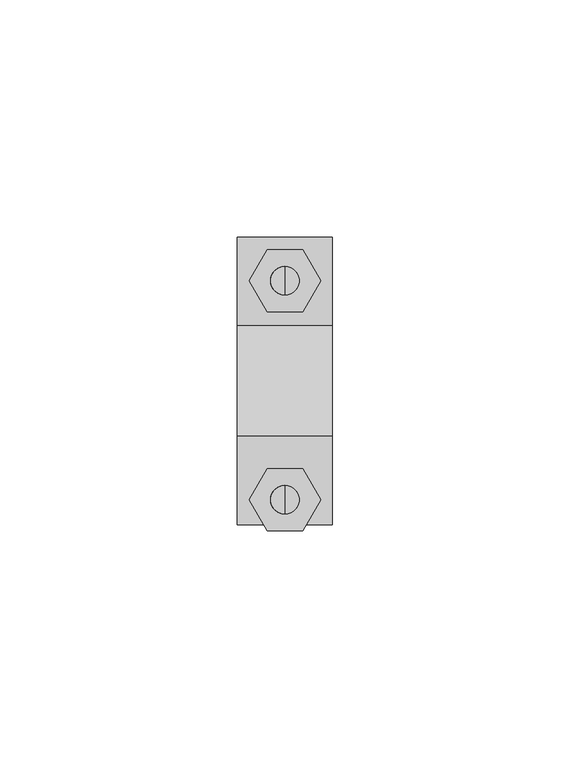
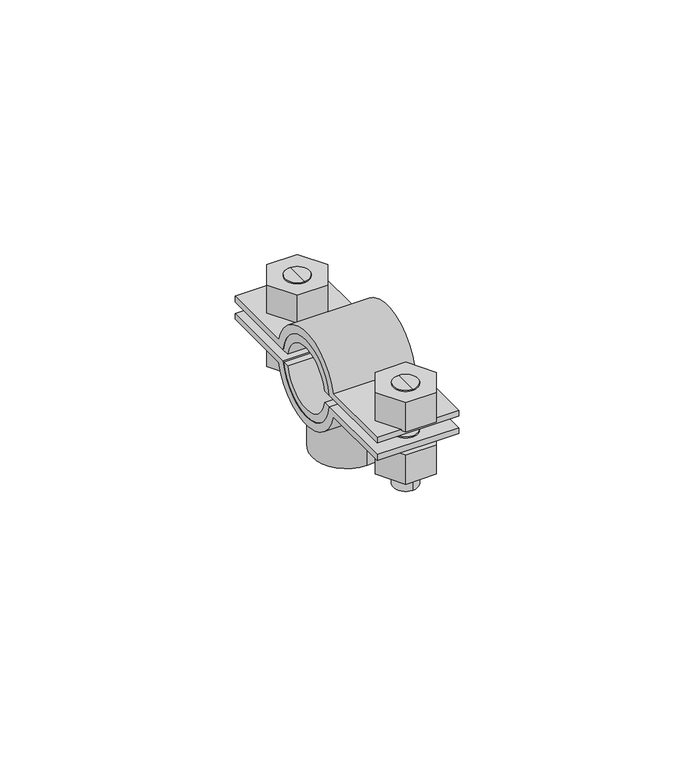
"""IFC4 building model written with IfcOpenShell, lengths in millimetres: valve geometry, Superfix DG2 Clamp Extra (based on pipe) : Superfix DG2 Clamp Extra (based on pipe)."""

from ifc_helpers import new_model, si_unit, point, frame, frame_2d, origin, origin_2d, place, context, project, spatial, polyline, circle_curve, trimmed, segment, composite_curve, outline, extrude, source, transform, mapped, element, save
from ifc_brep_helpers import plane_surface, cylinder_surface, advanced_brep


def valve_b86718a5(model_context):
    return source(origin(), model_context, "Body", "SolidModel", [
        advanced_brep(
        [(0.0, 24.125, 342.9002332), (0.0, 18.125, 342.9002332), (0.0, 18.125, 357.0002332), (0.0, 24.125, 357.0002332), (0.0, 21.125, 342.9002332)],
        [
            (0, 1, circle_curve(frame((0.0, 21.125, 342.9002332), z_axis=(0.0, 0.0, 1.0), x_axis=(0.0, 1.0, 0.0)), 3.0)),
            (1, 2),
            (2, 3, circle_curve(frame((0.0, 21.125, 357.0002332), z_axis=(0.0, 0.0, -1.0), x_axis=(0.0, 1.0, 0.0)), 3.0)),
            (3, 0),
            (1, 0, circle_curve(frame((0.0, 21.125, 342.9002332), z_axis=(0.0, 0.0, 1.0), x_axis=(0.0, 1.0, 0.0)), 3.0)),
            (3, 2, circle_curve(frame((0.0, 21.125, 357.0002332), z_axis=(0.0, 0.0, -1.0), x_axis=(0.0, 1.0, 0.0)), 3.0)),
            (0, 4),
            (4, 1),
        ],
        [
            cylinder_surface(frame((0.0, 21.125, 356.7808426), z_axis=(0.0, 0.0, 1.0), x_axis=(0.0, 1.0, 0.0)), 3.0),
            plane_surface(frame((0.0, 21.125, 342.9002332), z_axis=(0.0, 0.0, -1.0), x_axis=(0.0, 1.0, 0.0))),
            plane_surface(frame((13.75, -30.25, 357.0002332), z_axis=(0.0, 0.0, 1.0), x_axis=(-1.0, 0.0, 0.0))),
        ],
        [
            (0, [[1, 2, 3, 4]]),
            (0, [[5, -4, 6, -2]]),
            (1, [[-1, 7, 8]]),
            (1, [[-5, -8, -7]]),
            (2, [[-3, -6]]),
        ],
    ),
        advanced_brep(
        [(0.0, 18.125, 369.1002332), (0.0, 24.125, 369.1002332), (0.0, 24.125, 360.0002332), (0.0, 18.125, 360.0002332), (0.0, 21.125, 369.1002332)],
        [
            (0, 1, circle_curve(frame((0.0, 21.125, 369.1002332), z_axis=(0.0, 0.0, -1.0), x_axis=(0.0, 1.0, 0.0)), 3.0)),
            (1, 2),
            (2, 3, circle_curve(frame((0.0, 21.125, 360.0002332), z_axis=(0.0, 0.0, 1.0), x_axis=(0.0, 1.0, 0.0)), 3.0)),
            (3, 0),
            (1, 0, circle_curve(frame((0.0, 21.125, 369.1002332), z_axis=(0.0, 0.0, -1.0), x_axis=(0.0, 1.0, 0.0)), 3.0)),
            (3, 2, circle_curve(frame((0.0, 21.125, 360.0002332), z_axis=(0.0, 0.0, 1.0), x_axis=(0.0, 1.0, 0.0)), 3.0)),
            (0, 4),
            (4, 1),
        ],
        [
            cylinder_surface(frame((0.0, 21.125, 356.7808426), z_axis=(0.0, 0.0, 1.0), x_axis=(0.0, 1.0, 0.0)), 3.0),
            plane_surface(frame((0.0, 21.125, 369.1002332), z_axis=(0.0, 0.0, 1.0), x_axis=(0.0, 1.0, 0.0))),
            plane_surface(frame((13.75, 30.25, 360.0002332), z_axis=(0.0, 0.0, -1.0), x_axis=(-1.0, 0.0, 0.0))),
        ],
        [
            (0, [[1, 2, 3, 4]]),
            (0, [[5, -4, 6, -2]]),
            (1, [[-1, 7, 8]]),
            (1, [[-5, -8, -7]]),
            (2, [[-3, -6]]),
        ],
    ),
        advanced_brep(
        [(0.0, -28.0, 369.1002332), (0.0, -22.0, 369.1002332), (0.0, -22.0, 360.0002332), (0.0, -28.0, 360.0002332), (0.0, -25.0, 369.1002332)],
        [
            (0, 1, circle_curve(frame((0.0, -25.0, 369.1002332), z_axis=(0.0, 0.0, -1.0), x_axis=(0.0, -1.0, 0.0)), 3.0)),
            (1, 2),
            (2, 3, circle_curve(frame((0.0, -25.0, 360.0002332), z_axis=(0.0, 0.0, 1.0), x_axis=(0.0, -1.0, 0.0)), 3.0)),
            (3, 0),
            (1, 0, circle_curve(frame((0.0, -25.0, 369.1002332), z_axis=(0.0, 0.0, -1.0), x_axis=(0.0, -1.0, 0.0)), 3.0)),
            (3, 2, circle_curve(frame((0.0, -25.0, 360.0002332), z_axis=(0.0, 0.0, 1.0), x_axis=(0.0, -1.0, 0.0)), 3.0)),
            (0, 4),
            (4, 1),
        ],
        [
            cylinder_surface(frame((0.0, -25.0, 356.7808426), z_axis=(0.0, 0.0, -1.0), x_axis=(0.0, -1.0, 0.0)), 3.0),
            plane_surface(frame((0.0, -25.0, 369.1002332), z_axis=(0.0, 0.0, 1.0), x_axis=(0.0, -1.0, 0.0))),
            plane_surface(frame((13.75, 30.25, 360.0002332), z_axis=(0.0, 0.0, -1.0), x_axis=(-1.0, 0.0, 0.0))),
        ],
        [
            (0, [[1, 2, 3, 4]]),
            (0, [[5, -4, 6, -2]]),
            (1, [[-1, 7, 8]]),
            (1, [[-5, -8, -7]]),
            (2, [[-3, -6]]),
        ],
    ),
        advanced_brep(
        [(0.0, -22.0, 342.9002332), (0.0, -28.0, 342.9002332), (0.0, -28.0, 357.0002332), (0.0, -22.0, 357.0002332), (0.0, -25.0, 342.9002332)],
        [
            (0, 1, circle_curve(frame((0.0, -25.0, 342.9002332), z_axis=(0.0, 0.0, 1.0), x_axis=(0.0, -1.0, 0.0)), 3.0)),
            (1, 2),
            (2, 3, circle_curve(frame((0.0, -25.0, 357.0002332), z_axis=(0.0, 0.0, -1.0), x_axis=(0.0, -1.0, 0.0)), 3.0)),
            (3, 0),
            (1, 0, circle_curve(frame((0.0, -25.0, 342.9002332), z_axis=(0.0, 0.0, 1.0), x_axis=(0.0, -1.0, 0.0)), 3.0)),
            (3, 2, circle_curve(frame((0.0, -25.0, 357.0002332), z_axis=(0.0, 0.0, -1.0), x_axis=(0.0, -1.0, 0.0)), 3.0)),
            (0, 4),
            (4, 1),
        ],
        [
            cylinder_surface(frame((0.0, -25.0, 356.7808426), z_axis=(0.0, 0.0, -1.0), x_axis=(0.0, -1.0, 0.0)), 3.0),
            plane_surface(frame((0.0, -25.0, 342.9002332), z_axis=(0.0, 0.0, -1.0), x_axis=(0.0, -1.0, 0.0))),
            plane_surface(frame((13.75, -30.25, 357.0002332), z_axis=(0.0, 0.0, 1.0), x_axis=(-1.0, 0.0, 0.0))),
        ],
        [
            (0, [[1, 2, 3, 4]]),
            (0, [[5, -4, 6, -2]]),
            (1, [[-1, 7, 8]]),
            (1, [[-5, -8, -7]]),
            (2, [[-3, -6]]),
        ],
    ),
        extrude(outline(composite_curve([segment(trimmed(circle_curve(frame_2d((0.0, 358.5002332)), 10.0), [point((-9.88686, 357.0002332))], [point((9.88686, 357.0002332))], True, "CARTESIAN"), True, "CONTINUOUS"), segment(polyline([(9.88686, 357.0002332), (30.25, 357.0002332), (30.25, 355.5002332), (11.61895, 355.5002332)]), True, "CONTINUOUS"), segment(trimmed(circle_curve(frame_2d((0.0, 358.5002332)), 12.0), [point((11.61895, 355.5002332))], [point((-11.61895, 355.5002332))], False, "CARTESIAN"), True, "CONTINUOUS"), segment(polyline([(-11.61895, 355.5002332), (-30.25, 355.5002332), (-30.25, 357.0002332), (-9.88686, 357.0002332)]), True, "CONTINUOUS")], self_intersect=False)), frame((-10.0, 0.0, 0.0), z_axis=(1.0, 0.0, 0.0), x_axis=(0.0, 1.0, 0.0)), (0.0, 0.0, 1.0), 20.0),
        extrude(outline(composite_curve([segment(trimmed(circle_curve(frame_2d((0.0, 358.5002332)), 10.0), [point((9.88686, 360.0002332))], [point((-9.88686, 360.0002332))], True, "CARTESIAN"), True, "CONTINUOUS"), segment(polyline([(-9.88686, 360.0002332), (-30.25, 360.0002332), (-30.25, 361.5002332), (-11.61895, 361.5002332)]), True, "CONTINUOUS"), segment(trimmed(circle_curve(frame_2d((0.0, 358.5002332)), 12.0), [point((-11.61895, 361.5002332))], [point((11.61895, 361.5002332))], False, "CARTESIAN"), True, "CONTINUOUS"), segment(polyline([(11.61895, 361.5002332), (30.25, 361.5002332), (30.25, 360.0002332), (9.88686, 360.0002332)]), True, "CONTINUOUS")], self_intersect=False)), frame((-10.0, 0.0, 0.0), z_axis=(1.0, 0.0, 0.0), x_axis=(0.0, 1.0, 0.0)), (0.0, 0.0, 1.0), 20.0),
        extrude(outline(polyline([(7.5055535, -25.0), (3.7527767, -31.5), (-3.7527767, -31.5), (-7.5055535, -25.0), (-3.7527767, -18.5), (3.7527767, -18.5), (7.5055535, -25.0)]), holes=[composite_curve([segment(trimmed(circle_curve(frame_2d((0.0, -25.0)), 3.0), [point((3.0, -25.0))], [point((-3.0, -25.0))], True, "CARTESIAN"), True, "CONTINUOUS"), segment(trimmed(circle_curve(frame_2d((0.0, -25.0)), 3.0), [point((-3.0, -25.0))], [point((3.0, -25.0))], True, "CARTESIAN"), True, "CONTINUOUS")], self_intersect=False)]), frame((0.0, 0.0, 361.5002332), z_axis=(0.0, 0.0, 1.0), x_axis=(1.0, 0.0, 0.0)), (0.0, 0.0, 1.0), 7.6),
        extrude(outline(polyline([(7.5055535, 21.125), (3.7527767, 14.625), (-3.7527767, 14.625), (-7.5055535, 21.125), (-3.7527767, 27.625), (3.7527767, 27.625), (7.5055535, 21.125)]), holes=[composite_curve([segment(trimmed(circle_curve(frame_2d((0.0, 21.125)), 3.0), [point((3.0, 21.125))], [point((-3.0, 21.125))], True, "CARTESIAN"), True, "CONTINUOUS"), segment(trimmed(circle_curve(frame_2d((0.0, 21.125)), 3.0), [point((-3.0, 21.125))], [point((3.0, 21.125))], True, "CARTESIAN"), True, "CONTINUOUS")], self_intersect=False)]), frame((0.0, 0.0, 361.5002332), z_axis=(0.0, 0.0, 1.0), x_axis=(1.0, 0.0, 0.0)), (0.0, 0.0, 1.0), 7.6),
        extrude(outline(polyline([(7.5055535, -25.0), (3.7527767, -31.5), (-3.7527767, -31.5), (-7.5055535, -25.0), (-3.7527767, -18.5), (3.7527767, -18.5), (7.5055535, -25.0)]), holes=[composite_curve([segment(trimmed(circle_curve(frame_2d((0.0, -25.0)), 3.0), [point((3.0, -25.0))], [point((-3.0, -25.0))], True, "CARTESIAN"), True, "CONTINUOUS"), segment(trimmed(circle_curve(frame_2d((0.0, -25.0)), 3.0), [point((-3.0, -25.0))], [point((3.0, -25.0))], True, "CARTESIAN"), True, "CONTINUOUS")], self_intersect=False)]), frame((0.0, 0.0, 347.9002332), z_axis=(0.0, 0.0, 1.0), x_axis=(1.0, 0.0, 0.0)), (0.0, 0.0, 1.0), 7.6),
        extrude(outline(polyline([(7.5055535, 21.125), (3.7527767, 14.625), (-3.7527767, 14.625), (-7.5055535, 21.125), (-3.7527767, 27.625), (3.7527767, 27.625), (7.5055535, 21.125)]), holes=[composite_curve([segment(trimmed(circle_curve(frame_2d((0.0, 21.125)), 3.0), [point((3.0, 21.125))], [point((-3.0, 21.125))], True, "CARTESIAN"), True, "CONTINUOUS"), segment(trimmed(circle_curve(frame_2d((0.0, 21.125)), 3.0), [point((-3.0, 21.125))], [point((3.0, 21.125))], True, "CARTESIAN"), True, "CONTINUOUS")], self_intersect=False)]), frame((0.0, 0.0, 347.9002332), z_axis=(0.0, 0.0, 1.0), x_axis=(1.0, 0.0, 0.0)), (0.0, 0.0, 1.0), 7.6),
        extrude(outline(composite_curve([segment(trimmed(circle_curve(origin_2d(), 8.5), [point((0.0, 8.5))], [point((0.0, -8.5))], False, "CARTESIAN"), True, "CONTINUOUS"), segment(trimmed(circle_curve(origin_2d(), 8.5), [point((0.0, -8.5))], [point((0.0, 8.5))], False, "CARTESIAN"), True, "CONTINUOUS")], self_intersect=False), holes=[composite_curve([segment(trimmed(circle_curve(origin_2d(), 5.0), [point((0.0, 5.0))], [point((0.0, -5.0))], True, "CARTESIAN"), True, "CONTINUOUS"), segment(trimmed(circle_curve(origin_2d(), 5.0), [point((0.0, -5.0))], [point((0.0, 5.0))], True, "CARTESIAN"), True, "CONTINUOUS")], self_intersect=False)]), frame((0.0, 0.0, 337.5002332), z_axis=(0.0, 0.0, 1.0), x_axis=(1.0, 0.0, 0.0)), (0.0, 0.0, 1.0), 11.5),
        extrude(outline(composite_curve([segment(trimmed(circle_curve(frame_2d((0.0, 358.5002332)), 8.0), [point((7.8581168, 360.0002332))], [point((-7.8581168, 360.0002332))], True, "CARTESIAN"), True, "CONTINUOUS"), segment(polyline([(-7.8581168, 360.0002332), (-9.88686, 360.0002332)]), True, "CONTINUOUS"), segment(trimmed(circle_curve(frame_2d((0.0, 358.5002332)), 10.0), [point((-9.88686, 360.0002332))], [point((9.88686, 360.0002332))], False, "CARTESIAN"), True, "CONTINUOUS"), segment(polyline([(9.88686, 360.0002332), (7.8581168, 360.0002332)]), True, "CONTINUOUS")], self_intersect=False)), frame((-10.0, 0.0, 0.0), z_axis=(1.0, 0.0, 0.0), x_axis=(0.0, 1.0, 0.0)), (0.0, 0.0, 1.0), 20.0),
        extrude(outline(composite_curve([segment(polyline([(7.8581168, 357.0002332), (9.88686, 357.0002332)]), True, "CONTINUOUS"), segment(trimmed(circle_curve(frame_2d((0.0, 358.5002332)), 10.0), [point((9.88686, 357.0002332))], [point((-9.88686, 357.0002332))], False, "CARTESIAN"), True, "CONTINUOUS"), segment(polyline([(-9.88686, 357.0002332), (-7.8581168, 357.0002332)]), True, "CONTINUOUS"), segment(trimmed(circle_curve(frame_2d((0.0, 358.5002332)), 8.0), [point((-7.8581168, 357.0002332))], [point((7.8581168, 357.0002332))], True, "CARTESIAN"), True, "CONTINUOUS")], self_intersect=False)), frame((-10.0, 0.0, 0.0), z_axis=(1.0, 0.0, 0.0), x_axis=(0.0, 1.0, 0.0)), (0.0, 0.0, 1.0), 20.0),
    ])


if __name__ == "__main__":
    model = new_model("IFC4")
    model_context = context("Model", 3, world=origin())
    ifc_project = project(units=[si_unit("LENGTHUNIT", "METRE", prefix="MILLI")], contexts=[model_context])
    site = spatial("IfcSite", under=ifc_project)
    building = spatial("IfcBuilding", under=site)
    placement = place(None, origin())
    valve_shape = valve_b86718a5(model_context)
    element("IfcValve", 1, ObjectType="Superfix DG2 Clamp Extra (based on pipe) : Superfix DG2 Clamp Extra (based on pipe)", at=placement, inside=building, context=model_context, shape_type="MappedRepresentation", body=[
        mapped(valve_shape, transform((0.0, 0.0, 0.0), x_axis=(1.0, 0.0, 0.0), y_axis=(0.0, 1.0, 0.0), z_axis=(0.0, 0.0, 1.0))),
    ])
    save(model, "model.ifc")
